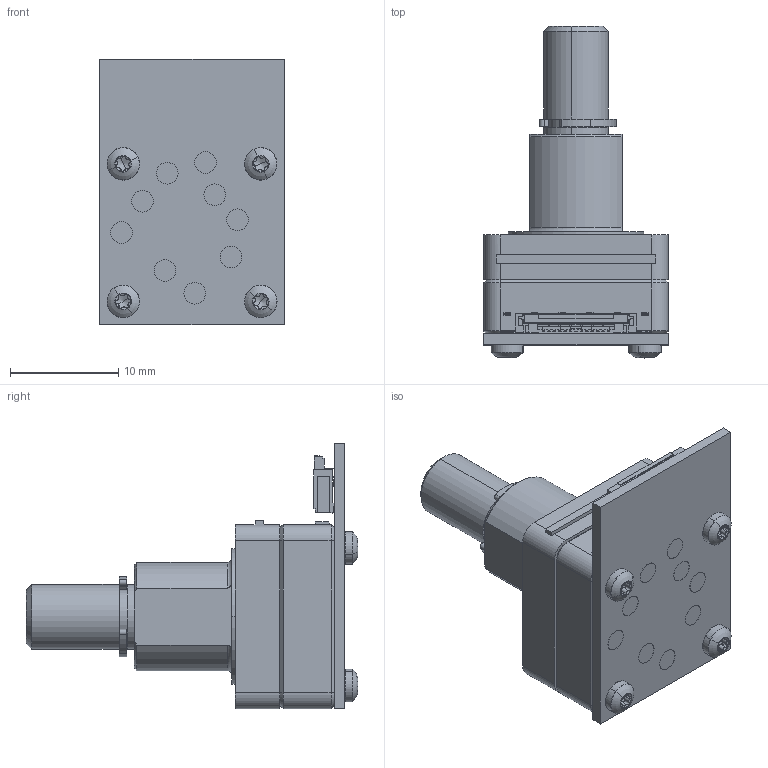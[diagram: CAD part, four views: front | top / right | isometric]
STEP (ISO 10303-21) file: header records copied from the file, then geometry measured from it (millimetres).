
FILE_DESCRIPTION (( 'STEP AP214' ), '1' );
FILE_NAME ('1120-1202-0005-01-reduziert.STEP', '2024-02-21T09:44:41', ( '' ), ( '' ), 'SwSTEP 2.0', 'SolidWorks 2023', '' );
FILE_SCHEMA (( 'AUTOMOTIVE_DESIGN' ));
Products named in the file (1): 1120-1202-0005-01-reduziert
Bounding box: 17 x 30.64 x 24.5 mm (x, y, z)
Surface area: 2947 mm2 (no closed solid volume)
Topology: 0 solids, 29 shells, 475 faces, 2215 edges, 1731 vertices
Faces by surface type: plane 209, cylinder 153, cone 47, torus 30, bspline 20, sphere 16
Entity records: 74202 total; most frequent: CARTESIAN_POINT 58140, ORIENTED_EDGE 3113, DIRECTION 3005, EDGE_CURVE 2195, VERTEX_POINT 1727, LINE 1199, VECTOR 1199, AXIS2_PLACEMENT_3D 903
